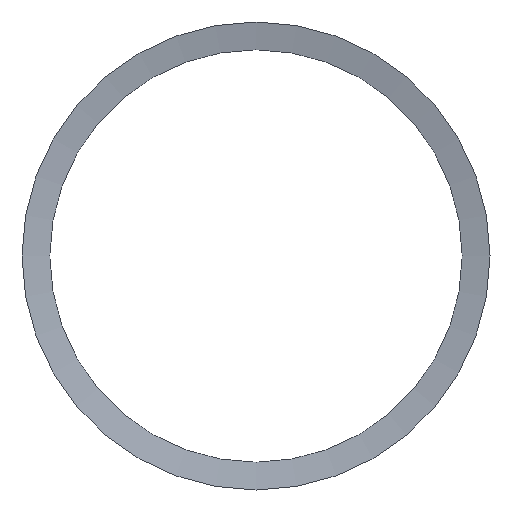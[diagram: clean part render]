
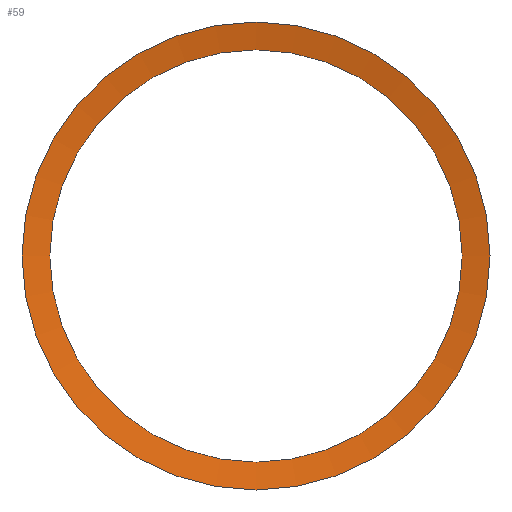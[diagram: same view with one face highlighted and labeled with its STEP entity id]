
A CAD part, front view. The second image highlights one B-rep face of the part: STEP entity #59.
In plain terms, the highlighted conical face has half-angle 80 degrees and reference radius 46.079 mm.
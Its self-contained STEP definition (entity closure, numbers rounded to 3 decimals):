
#13=CONICAL_SURFACE($,#69,46.079,80.);
#16=FACE_BOUND($,#27,.T.);
#20=FACE_OUTER_BOUND($,#26,.T.);
#26=EDGE_LOOP($,(#46));
#27=EDGE_LOOP($,(#47));
#31=CIRCLE($,#66,45.6);
#33=CIRCLE($,#70,51.75);
#35=VERTEX_POINT($,#94);
#37=VERTEX_POINT($,#100);
#39=EDGE_CURVE($,#35,#35,#31,.T.);
#41=EDGE_CURVE($,#37,#37,#33,.T.);
#46=ORIENTED_EDGE($,*,*,#39,.T.);
#47=ORIENTED_EDGE($,*,*,#41,.F.);
#59=ADVANCED_FACE($,(#20,#16),#13,.F.);
#66=AXIS2_PLACEMENT_3D($,#95,#78,#79);
#69=AXIS2_PLACEMENT_3D($,#99,#84,#85);
#70=AXIS2_PLACEMENT_3D($,#101,#86,#87);
#78=DIRECTION('center_axis',(0.,1.,0.));
#79=DIRECTION('ref_axis',(1.,0.,0.));
#84=DIRECTION('center_axis',(0.,-1.,0.));
#85=DIRECTION('ref_axis',(-1.,0.,0.));
#86=DIRECTION('center_axis',(0.,1.,0.));
#87=DIRECTION('ref_axis',(-1.,0.,0.));
#94=CARTESIAN_POINT('',(-45.6,-0.916,0.));
#95=CARTESIAN_POINT('Origin',(0.,-0.916,0.));
#99=CARTESIAN_POINT('Origin',(0.,-1.,0.));
#100=CARTESIAN_POINT('',(-51.75,-2.,0.));
#101=CARTESIAN_POINT('Origin',(0.,-2.,0.));
